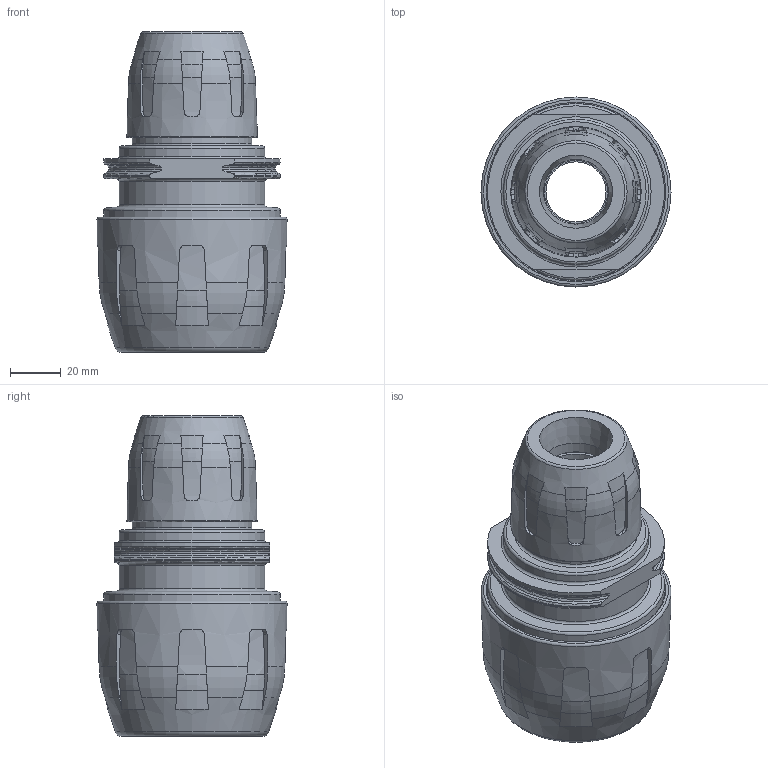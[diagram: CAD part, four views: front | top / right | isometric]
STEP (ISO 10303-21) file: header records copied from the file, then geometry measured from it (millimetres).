
FILE_DESCRIPTION( ( 'STEP AP214' ), '1' );
FILE_NAME( ' ', ' ', ( ' ' ), ( ' ' ), 'PSStep 11.0', 'VISI 17.0', ' ' );
FILE_SCHEMA( ( 'AUTOMOTIVE_DESIGN { 1 0 10303 214 1 1 1 1 }' ) );
Length unit declared in the file: millimetre
Products named in the file (3): 1; 2; 3
Bounding box: 74.56 x 74.56 x 125.73 mm (x, y, z)
Volume: 248398.9 mm3; surface area: 72571.7 mm2
Topology: 3 solids, 3 shells, 437 faces, 1229 edges, 815 vertices
Faces by surface type: plane 217, cone 96, cylinder 59, torus 33, bspline 32
Full cylindrical faces by diameter (mm): 23.576 x1, 25.7 x2, 37.774 x1, 38.2 x1, 39.2 x1, 40.8 x1, 40.9 x1, 41.7 x1, 41.847 x1, 46.758 x1, 48.6 x1, 57 x2, 58.9 x1, 59.8 x2, 64.1 x1, 65.4 x1, 69.4 x1, 70.4 x1
Entity records: 19014 total; most frequent: CARTESIAN_POINT 5050, ORIENTED_EDGE 2296, DIRECTION 2016, EDGE_CURVE 1148, AXIS2_PLACEMENT_3D 872, VERTEX_POINT 790, EDGE_LOOP 516, FACE_OUTER_BOUND 481
